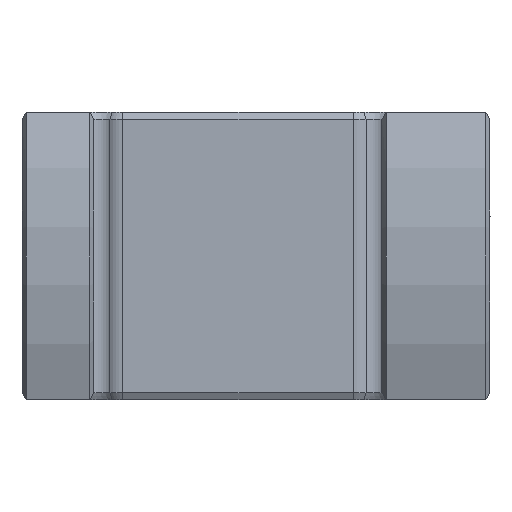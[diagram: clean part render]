
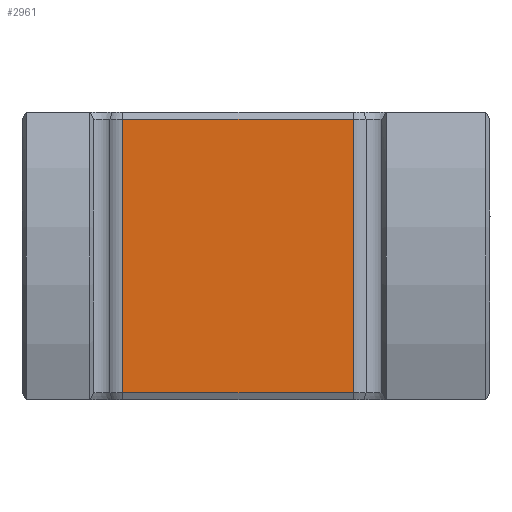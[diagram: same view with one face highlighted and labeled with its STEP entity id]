
A CAD part, left-side view. The second image highlights one B-rep face of the part: STEP entity #2961.
In plain terms, the highlighted planar face has unit normal (-1, 0, 0).
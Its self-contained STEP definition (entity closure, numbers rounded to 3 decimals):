
#95=PLANE('',#3272);
#314=FACE_OUTER_BOUND('',#498,.T.);
#498=EDGE_LOOP('',(#2593,#2594,#2595,#2596));
#788=LINE('',#5012,#1044);
#798=LINE('',#5063,#1054);
#949=LINE('',#5505,#1205);
#951=LINE('',#5508,#1207);
#1044=VECTOR('',#3537,10.);
#1054=VECTOR('',#3587,10.);
#1205=VECTOR('',#4046,10.);
#1207=VECTOR('',#4050,10.);
#1339=VERTEX_POINT('',#5002);
#1341=VERTEX_POINT('',#5008);
#1354=VERTEX_POINT('',#5057);
#1355=VERTEX_POINT('',#5061);
#1632=EDGE_CURVE('',#1339,#1341,#788,.T.);
#1655=EDGE_CURVE('',#1355,#1354,#798,.T.);
#1868=EDGE_CURVE('',#1341,#1355,#949,.T.);
#1870=EDGE_CURVE('',#1354,#1339,#951,.T.);
#2593=ORIENTED_EDGE('',*,*,#1632,.F.);
#2594=ORIENTED_EDGE('',*,*,#1870,.F.);
#2595=ORIENTED_EDGE('',*,*,#1655,.F.);
#2596=ORIENTED_EDGE('',*,*,#1868,.F.);
#2961=ADVANCED_FACE('',(#314),#95,.T.);
#3272=AXIS2_PLACEMENT_3D('',#5507,#4048,#4049);
#3537=DIRECTION('',(0.,-1.,0.));
#3587=DIRECTION('',(0.,1.,0.));
#4046=DIRECTION('',(0.,0.,-1.));
#4048=DIRECTION('center_axis',(-1.,0.,0.));
#4049=DIRECTION('ref_axis',(0.,-1.,0.));
#4050=DIRECTION('',(0.,0.,1.));
#5002=CARTESIAN_POINT('',(50.,-14.,39.));
#5008=CARTESIAN_POINT('',(50.,-46.,39.));
#5012=CARTESIAN_POINT('',(50.,-21.25,39.));
#5057=CARTESIAN_POINT('',(50.,-14.,1.));
#5061=CARTESIAN_POINT('',(50.,-46.,1.));
#5063=CARTESIAN_POINT('',(50.,-21.25,1.));
#5505=CARTESIAN_POINT('',(50.,-46.,40.));
#5507=CARTESIAN_POINT('Origin',(50.,-10.,0.));
#5508=CARTESIAN_POINT('',(50.,-14.,40.));
